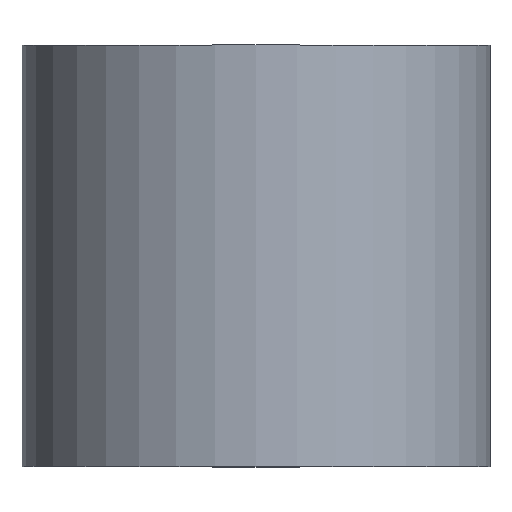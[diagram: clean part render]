
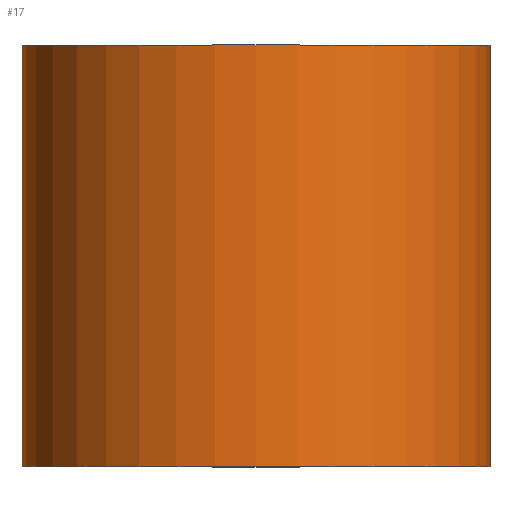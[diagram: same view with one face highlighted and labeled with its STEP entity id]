
A CAD part, top view. The second image highlights one B-rep face of the part: STEP entity #17.
In plain terms, the highlighted cylindrical face has radius 20 mm (diameter 40 mm), a full revolution.
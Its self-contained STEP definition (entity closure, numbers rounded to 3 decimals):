
#17 = ADVANCED_FACE('',(#18),#31,.T.);
#18 = FACE_BOUND('',#19,.T.);
#19 = EDGE_LOOP('',(#20,#54,#77,#104));
#20 = ORIENTED_EDGE('',*,*,#21,.F.);
#21 = EDGE_CURVE('',#22,#22,#24,.T.);
#22 = VERTEX_POINT('',#23);
#23 = CARTESIAN_POINT('',(315.,-49.913,145.));
#24 = SURFACE_CURVE('',#25,(#30,#42),.PCURVE_S1.);
#25 = CIRCLE('',#26,20.);
#26 = AXIS2_PLACEMENT_3D('',#27,#28,#29);
#27 = CARTESIAN_POINT('',(315.,-49.913,125.));
#28 = DIRECTION('',(0.,1.,0.));
#29 = DIRECTION('',(0.,-0.,1.));
#30 = PCURVE('',#31,#36);
#31 = CYLINDRICAL_SURFACE('',#32,20.);
#32 = AXIS2_PLACEMENT_3D('',#33,#34,#35);
#33 = CARTESIAN_POINT('',(315.,-85.913,125.));
#34 = DIRECTION('',(0.,1.,0.));
#35 = DIRECTION('',(0.,-0.,1.));
#36 = DEFINITIONAL_REPRESENTATION('',(#37),#41);
#37 = LINE('',#38,#39);
#38 = CARTESIAN_POINT('',(0.,36.));
#39 = VECTOR('',#40,1.);
#40 = DIRECTION('',(1.,0.));
#41 = ( GEOMETRIC_REPRESENTATION_CONTEXT(2) 
PARAMETRIC_REPRESENTATION_CONTEXT() REPRESENTATION_CONTEXT('2D SPACE',''
  ) );
#42 = PCURVE('',#43,#48);
#43 = PLANE('',#44);
#44 = AXIS2_PLACEMENT_3D('',#45,#46,#47);
#45 = CARTESIAN_POINT('',(315.,-49.913,125.));
#46 = DIRECTION('',(0.,1.,0.));
#47 = DIRECTION('',(0.,-0.,1.));
#48 = DEFINITIONAL_REPRESENTATION('',(#49),#53);
#49 = CIRCLE('',#50,20.);
#50 = AXIS2_PLACEMENT_2D('',#51,#52);
#51 = CARTESIAN_POINT('',(0.,0.));
#52 = DIRECTION('',(1.,0.));
#53 = ( GEOMETRIC_REPRESENTATION_CONTEXT(2) 
PARAMETRIC_REPRESENTATION_CONTEXT() REPRESENTATION_CONTEXT('2D SPACE',''
  ) );
#54 = ORIENTED_EDGE('',*,*,#55,.F.);
#55 = EDGE_CURVE('',#56,#22,#58,.T.);
#56 = VERTEX_POINT('',#57);
#57 = CARTESIAN_POINT('',(315.,-85.913,145.));
#58 = SEAM_CURVE('',#59,(#63,#70),.PCURVE_S1.);
#59 = LINE('',#60,#61);
#60 = CARTESIAN_POINT('',(315.,-85.913,145.));
#61 = VECTOR('',#62,1.);
#62 = DIRECTION('',(0.,1.,0.));
#63 = PCURVE('',#31,#64);
#64 = DEFINITIONAL_REPRESENTATION('',(#65),#69);
#65 = LINE('',#66,#67);
#66 = CARTESIAN_POINT('',(6.283,-0.));
#67 = VECTOR('',#68,1.);
#68 = DIRECTION('',(0.,1.));
#69 = ( GEOMETRIC_REPRESENTATION_CONTEXT(2) 
PARAMETRIC_REPRESENTATION_CONTEXT() REPRESENTATION_CONTEXT('2D SPACE',''
  ) );
#70 = PCURVE('',#31,#71);
#71 = DEFINITIONAL_REPRESENTATION('',(#72),#76);
#72 = LINE('',#73,#74);
#73 = CARTESIAN_POINT('',(0.,-0.));
#74 = VECTOR('',#75,1.);
#75 = DIRECTION('',(0.,1.));
#76 = ( GEOMETRIC_REPRESENTATION_CONTEXT(2) 
PARAMETRIC_REPRESENTATION_CONTEXT() REPRESENTATION_CONTEXT('2D SPACE',''
  ) );
#77 = ORIENTED_EDGE('',*,*,#78,.T.);
#78 = EDGE_CURVE('',#56,#56,#79,.T.);
#79 = SURFACE_CURVE('',#80,(#85,#92),.PCURVE_S1.);
#80 = CIRCLE('',#81,20.);
#81 = AXIS2_PLACEMENT_3D('',#82,#83,#84);
#82 = CARTESIAN_POINT('',(315.,-85.913,125.));
#83 = DIRECTION('',(0.,1.,0.));
#84 = DIRECTION('',(0.,-0.,1.));
#85 = PCURVE('',#31,#86);
#86 = DEFINITIONAL_REPRESENTATION('',(#87),#91);
#87 = LINE('',#88,#89);
#88 = CARTESIAN_POINT('',(0.,0.));
#89 = VECTOR('',#90,1.);
#90 = DIRECTION('',(1.,0.));
#91 = ( GEOMETRIC_REPRESENTATION_CONTEXT(2) 
PARAMETRIC_REPRESENTATION_CONTEXT() REPRESENTATION_CONTEXT('2D SPACE',''
  ) );
#92 = PCURVE('',#93,#98);
#93 = PLANE('',#94);
#94 = AXIS2_PLACEMENT_3D('',#95,#96,#97);
#95 = CARTESIAN_POINT('',(315.,-85.913,125.));
#96 = DIRECTION('',(0.,1.,0.));
#97 = DIRECTION('',(0.,-0.,1.));
#98 = DEFINITIONAL_REPRESENTATION('',(#99),#103);
#99 = CIRCLE('',#100,20.);
#100 = AXIS2_PLACEMENT_2D('',#101,#102);
#101 = CARTESIAN_POINT('',(0.,0.));
#102 = DIRECTION('',(1.,0.));
#103 = ( GEOMETRIC_REPRESENTATION_CONTEXT(2) 
PARAMETRIC_REPRESENTATION_CONTEXT() REPRESENTATION_CONTEXT('2D SPACE',''
  ) );
#104 = ORIENTED_EDGE('',*,*,#55,.T.);
